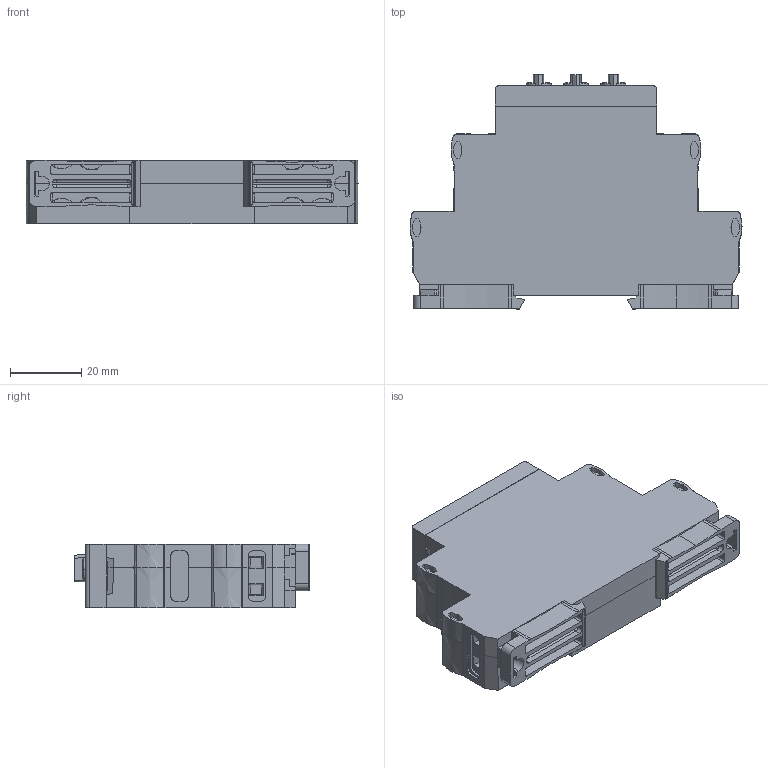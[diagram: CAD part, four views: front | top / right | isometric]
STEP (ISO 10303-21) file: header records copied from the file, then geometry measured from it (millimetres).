
FILE_DESCRIPTION (( 'STEP AP214' ), '1' );
FILE_NAME ('Assem_RKN-1-1-15_2018-10-19.STEP', '2018-10-19T18:28:43', ( '' ), ( '' ), 'SwSTEP 2.0', 'SolidWorks 2012', '' );
FILE_SCHEMA (( 'AUTOMOTIVE_DESIGN' ));
Length unit declared in the file: millimetre
Products named in the file (14): rkn-1-1_mark_klemm3_2018-10-19; rkn-1-1_mark_klemm2_2018-10-19; rkn-1-1_mark_klemm1_2018-10-19; rkn-1-1_mark_face_2018-10-19; R-knob_2017_Hex2mm__Ïî óìîë÷àíèþ; LightPipe_x3x2x1_v2015-0_build20160120_x1; DG128-5.08_Configurable_5.08x3; DG128-5.08_Configurable_7.62x2; Case13-18-23mm_2step_Lock_v01a; Case13-18-23mm_2step_Face_v011_06 - ﾐﾊﾍ-1-1; Case13-18-23mm_2step_plug_v01_18mm; Case13-18-23mm_2step_Half_v01c_6.5mm; Case13-18-23mm_2step_Half_v01c_11.25mm; Assem_RKN-1-1-15_2018-10-19
Assembly tree (20 placements, depth 2):
  Assem_RKN-1-1-15_2018-10-19
    Case13-18-23mm_2step_Half_v01c_11.25mm
    Case13-18-23mm_2step_Half_v01c_6.5mm
    Case13-18-23mm_2step_plug_v01_18mm  x2
    Case13-18-23mm_2step_Face_v011_06 - ﾐﾊﾍ-1-1
    Case13-18-23mm_2step_Lock_v01a  x2
    DG128-5.08_Configurable_7.62x2  x2
    DG128-5.08_Configurable_5.08x3  x2
    LightPipe_x3x2x1_v2015-0_build20160120_x1  x2
    R-knob_2017_Hex2mm__Ïî óìîë÷àíèþ  x3
    rkn-1-1_mark_face_2018-10-19
    rkn-1-1_mark_klemm1_2018-10-19
    rkn-1-1_mark_klemm2_2018-10-19
    rkn-1-1_mark_klemm3_2018-10-19
Bounding box: 93 x 65.8 x 17.75 mm (x, y, z)
Volume: 26121.3 mm3; surface area: 39251.6 mm2
Topology: 114 solids, 114 shells, 3033 faces, 8039 edges, 5267 vertices
Faces by surface type: plane 1917, bspline 692, cylinder 357, cone 67
Entity records: 111562 total; most frequent: CARTESIAN_POINT 23011, ORIENTED_EDGE 13526, DIRECTION 9787, EDGE_CURVE 6763, VECTOR 4797, LINE 4797, VERTEX_POINT 4468, UNCERTAINTY_MEASURE_WITH_UNIT 2664
